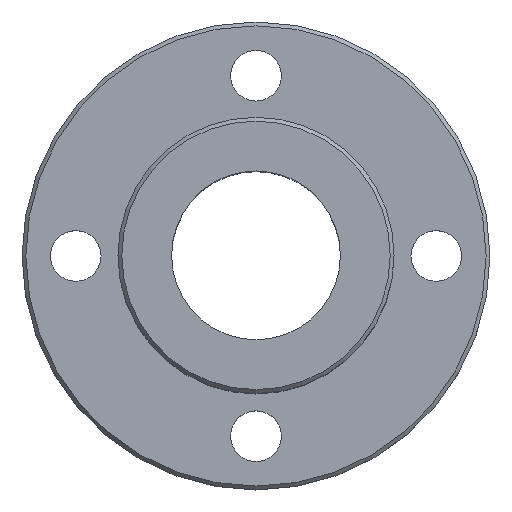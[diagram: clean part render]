
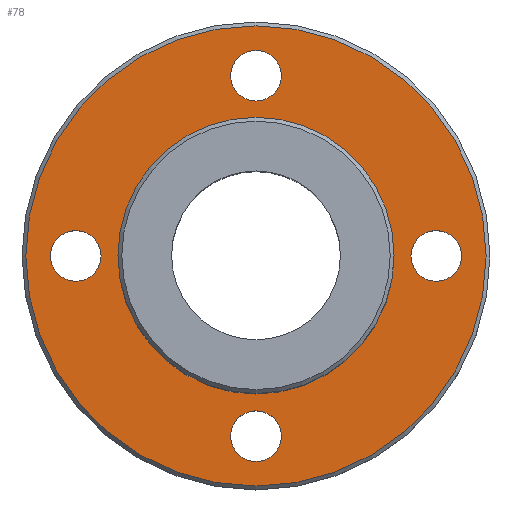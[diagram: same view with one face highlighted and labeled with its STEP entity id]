
A CAD part, top view. The second image highlights one B-rep face of the part: STEP entity #78.
In plain terms, the highlighted planar face has unit normal (0, 0, 1).
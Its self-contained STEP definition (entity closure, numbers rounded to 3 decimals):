
#78=ADVANCED_FACE('',(#102,#103,#104,#105,#106,#107),#108,.T.);
#102=FACE_BOUND('',#149,.T.);
#103=FACE_BOUND('',#150,.T.);
#104=FACE_OUTER_BOUND('',#151,.T.);
#105=FACE_BOUND('',#152,.T.);
#106=FACE_BOUND('',#153,.T.);
#107=FACE_BOUND('',#154,.T.);
#108=PLANE('',#155);
#149=EDGE_LOOP('',(#202));
#150=EDGE_LOOP('',(#203));
#151=EDGE_LOOP('',(#204));
#152=EDGE_LOOP('',(#205));
#153=EDGE_LOOP('',(#206));
#154=EDGE_LOOP('',(#207));
#155=AXIS2_PLACEMENT_3D('',#208,#209,#210);
#202=ORIENTED_EDGE('',*,*,#258,.T.);
#203=ORIENTED_EDGE('',*,*,#264,.T.);
#204=ORIENTED_EDGE('',*,*,#265,.T.);
#205=ORIENTED_EDGE('',*,*,#266,.T.);
#206=ORIENTED_EDGE('',*,*,#267,.T.);
#207=ORIENTED_EDGE('',*,*,#256,.T.);
#208=CARTESIAN_POINT('',(0.0,0.0,7.0));
#209=DIRECTION('',(0.0,0.0,1.0));
#210=DIRECTION('',(1.0,0.0,0.0));
#256=EDGE_CURVE('',#273,#273,#274,.F.);
#258=EDGE_CURVE('',#277,#277,#278,.F.);
#264=EDGE_CURVE('',#289,#289,#290,.F.);
#265=EDGE_CURVE('',#291,#291,#292,.T.);
#266=EDGE_CURVE('',#293,#293,#294,.F.);
#267=EDGE_CURVE('',#295,#295,#296,.F.);
#273=VERTEX_POINT('',#307);
#274=CIRCLE('',#308,3.3);
#277=VERTEX_POINT('',#311);
#278=CIRCLE('',#312,3.3);
#289=VERTEX_POINT('',#323);
#290=CIRCLE('',#324,3.3);
#291=VERTEX_POINT('',#325);
#292=CIRCLE('',#326,30.0);
#293=VERTEX_POINT('',#327);
#294=CIRCLE('',#328,18.0);
#295=VERTEX_POINT('',#329);
#296=CIRCLE('',#330,3.3);
#307=CARTESIAN_POINT('',(3.3,-23.5,7.0));
#308=AXIS2_PLACEMENT_3D('',#341,#342,#343);
#311=CARTESIAN_POINT('',(-20.2,0.,7.0));
#312=AXIS2_PLACEMENT_3D('',#347,#348,#349);
#323=CARTESIAN_POINT('',(26.8,0.,7.0));
#324=AXIS2_PLACEMENT_3D('',#365,#366,#367);
#325=CARTESIAN_POINT('',(30.0,0.0,7.0));
#326=AXIS2_PLACEMENT_3D('',#368,#369,#370);
#327=CARTESIAN_POINT('',(18.0,0.,7.0));
#328=AXIS2_PLACEMENT_3D('',#371,#372,#373);
#329=CARTESIAN_POINT('',(3.3,23.5,7.0));
#330=AXIS2_PLACEMENT_3D('',#374,#375,#376);
#341=CARTESIAN_POINT('',(0.,-23.5,7.0));
#342=DIRECTION('',(0.0,0.0,1.0));
#343=DIRECTION('',(1.0,0.0,0.0));
#347=CARTESIAN_POINT('',(-23.5,0.,7.0));
#348=DIRECTION('',(0.0,0.0,1.0));
#349=DIRECTION('',(1.0,0.0,0.0));
#365=CARTESIAN_POINT('',(23.5,0.0,7.0));
#366=DIRECTION('',(0.0,0.0,1.0));
#367=DIRECTION('',(1.0,0.0,0.0));
#368=CARTESIAN_POINT('',(0.0,0.0,7.0));
#369=DIRECTION('',(0.0,0.0,1.0));
#370=DIRECTION('',(1.0,0.0,0.0));
#371=CARTESIAN_POINT('',(0.0,0.0,7.0));
#372=DIRECTION('',(0.0,0.0,1.0));
#373=DIRECTION('',(1.0,0.0,0.0));
#374=CARTESIAN_POINT('',(0.,23.5,7.0));
#375=DIRECTION('',(0.0,0.0,1.0));
#376=DIRECTION('',(1.0,0.0,0.0));
